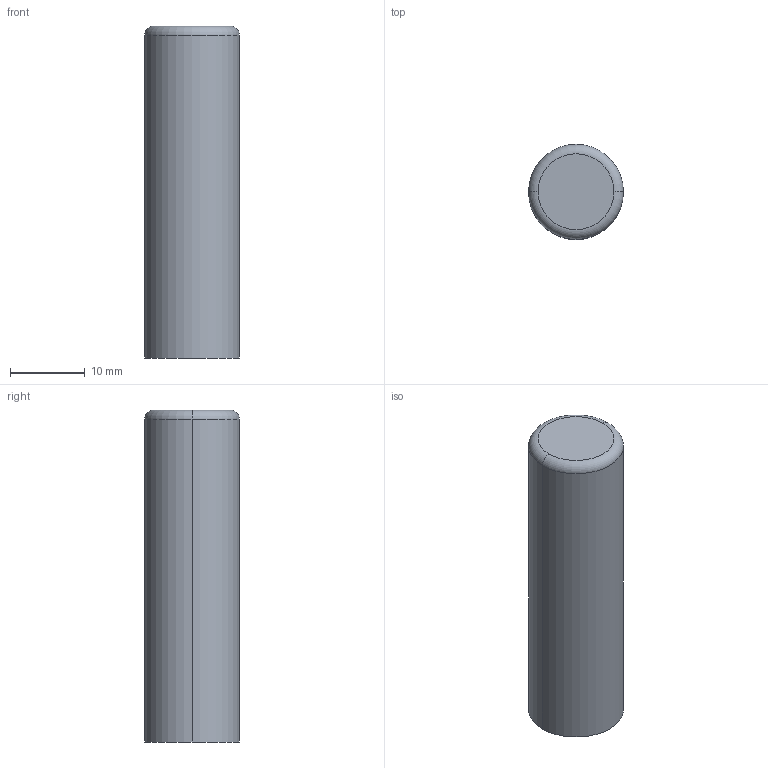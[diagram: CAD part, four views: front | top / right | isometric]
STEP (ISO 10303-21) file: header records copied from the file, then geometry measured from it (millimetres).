
FILE_DESCRIPTION (( 'STEP AP214' ), '1' );
FILE_NAME ('DOWEL D0.5.STEP', '2020-05-25T15:56:43', ( '' ), ( '' ), 'SwSTEP 2.0', 'SolidWorks 2020', '' );
FILE_SCHEMA (( 'AUTOMOTIVE_DESIGN' ));
Length unit declared in the file: inch
Products named in the file (1): DOWEL D0.5
Bounding box: 12.7 x 12.7 x 44.45 mm (x, y, z)
Volume: 5617.6 mm3; surface area: 2004.4 mm2
Topology: 1 solids, 1 shells, 6 faces, 10 edges, 6 vertices
Faces by surface type: torus 2, cylinder 2, plane 2
Entity records: 186 total; most frequent: DIRECTION 32, CARTESIAN_POINT 23, ORIENTED_EDGE 20, AXIS2_PLACEMENT_3D 15, EDGE_CURVE 10, CIRCLE 8, ADVANCED_FACE 6, FACE_OUTER_BOUND 6
